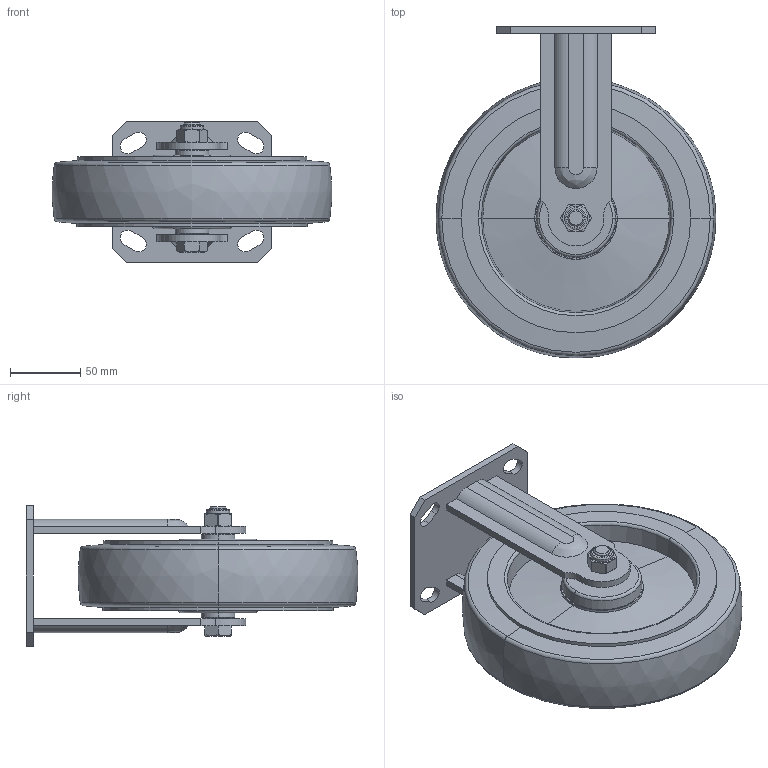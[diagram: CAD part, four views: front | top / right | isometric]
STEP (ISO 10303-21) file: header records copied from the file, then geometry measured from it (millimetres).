
FILE_DESCRIPTION((''),'2;1');
FILE_NAME('S7108_ASM','2021-10-15T',('lenovo'),(''),'PRO/ENGINEER BY PARAMETRIC TECHNOLOGY CORPORATION, 2010280','PRO/ENGINEER BY PARAMETRIC TECHNOLOGY CORPORATION, 2010280','');
FILE_SCHEMA(('CONFIG_CONTROL_DESIGN'));
Length unit declared in the file: millimetre
Products named in the file (6): S710C00; S718C10; S710-33; S710-34; 708-986; S7108_ASM
Assembly tree (6 placements, depth 2):
  S7108_ASM
    S710C00
    S718C10  x2
    S710-33
    S710-34
    708-986
Bounding box: 199.58 x 236.79 x 100 mm (x, y, z)
Volume: 1332699.8 mm3; surface area: 169621 mm2
Topology: 6 solids, 6 shells, 176 faces, 412 edges, 256 vertices
Faces by surface type: plane 58, cylinder 52, cone 42, torus 20, bspline 4
Entity records: 4794 total; most frequent: CARTESIAN_POINT 1033, DIRECTION 828, ORIENTED_EDGE 714, EDGE_CURVE 357, AXIS2_PLACEMENT_3D 337, VERTEX_POINT 220, EDGE_LOOP 177, CIRCLE 173
